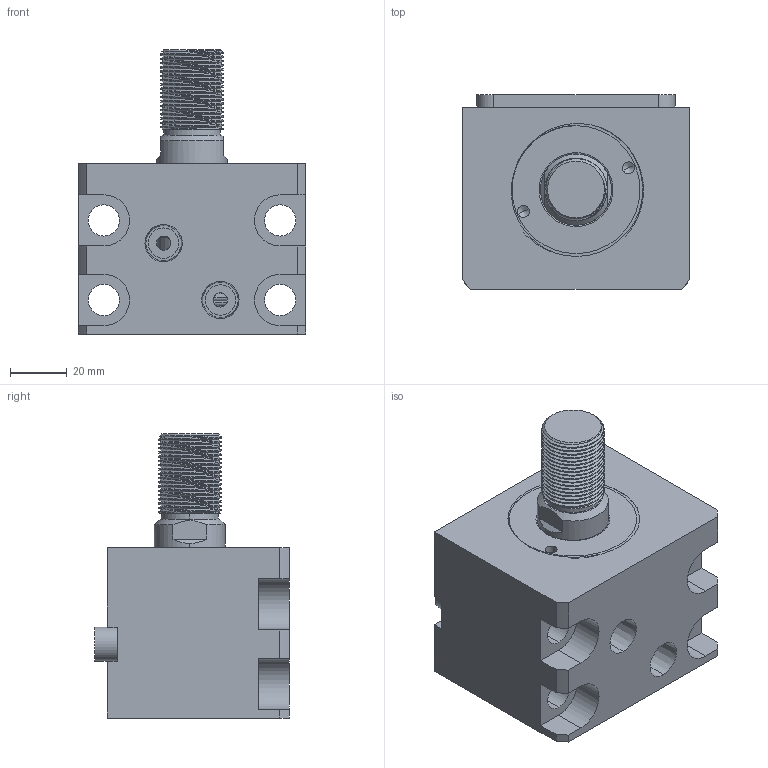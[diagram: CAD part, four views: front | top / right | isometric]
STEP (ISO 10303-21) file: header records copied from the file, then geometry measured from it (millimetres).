
FILE_DESCRIPTION (( 'STEP AP214' ), '1' );
FILE_NAME ('chtb-la40x5w_asm.STEP', '2018-06-02T06:26:18', ( 'Windows' ), ( 'Microsoft' ), 'SwSTEP 2.0', 'SolidWorks 2015', '' );
FILE_SCHEMA (( 'AUTOMOTIVE_DESIGN' ));
Length unit declared in the file: millimetre
Products named in the file (5): CHTB-SD40QG; CHTB-LA40PJ; CHTB-SD40X5WHSG; CHTB-LA40X5NBT; chtb-la40x5w_asm
Assembly tree (4 placements, depth 2):
  chtb-la40x5w_asm
    CHTB-LA40X5NBT
    CHTB-SD40X5WHSG
    CHTB-LA40PJ
    CHTB-SD40QG
Bounding box: 80 x 68.5 x 100 mm (x, y, z)
Volume: 282782.2 mm3; surface area: 68960.8 mm2
Topology: 4 solids, 5 shells, 205 faces, 559 edges, 373 vertices
Faces by surface type: cylinder 111, plane 52, bspline 16, cone 14, torus 12
Entity records: 13775 total; most frequent: CARTESIAN_POINT 8706, ORIENTED_EDGE 1106, DIRECTION 926, EDGE_CURVE 553, VERTEX_POINT 373, AXIS2_PLACEMENT_3D 363, EDGE_LOOP 234, ADVANCED_FACE 205
